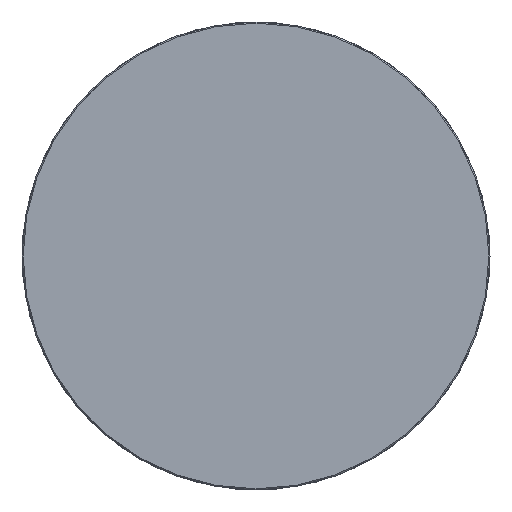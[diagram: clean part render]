
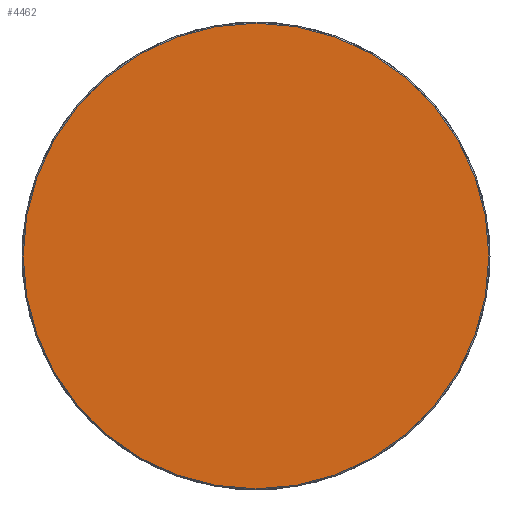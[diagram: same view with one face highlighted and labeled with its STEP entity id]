
A CAD part, left-side view. The second image highlights one B-rep face of the part: STEP entity #4462.
In plain terms, the highlighted planar face has unit normal (-1, 0, 0).
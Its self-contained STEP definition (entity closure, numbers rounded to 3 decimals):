
#131 = EDGE_LOOP ( 'NONE', ( #3657, #3814 ) ) ;
#146 = VERTEX_POINT ( 'NONE', #1279 ) ;
#437 = DIRECTION ( 'NONE',  ( -1., 0., 0. ) ) ;
#462 = DIRECTION ( 'NONE',  ( 0., 0., -1. ) ) ;
#579 = CARTESIAN_POINT ( 'NONE',  ( 0., 0., 0. ) ) ;
#1172 = FACE_OUTER_BOUND ( 'NONE', #131, .T. ) ;
#1245 = DIRECTION ( 'NONE',  ( 0., 0., -1. ) ) ;
#1249 = CARTESIAN_POINT ( 'NONE',  ( 0., 0., 0. ) ) ;
#1272 = DIRECTION ( 'NONE',  ( -1., 0., 0. ) ) ;
#1279 = CARTESIAN_POINT ( 'NONE',  ( 0., 0., -40.3 ) ) ;
#1425 = CARTESIAN_POINT ( 'NONE',  ( 0., 0., 40.3 ) ) ;
#1986 = EDGE_CURVE ( 'NONE', #146, #2403, #3428, .T. ) ;
#2125 = EDGE_CURVE ( 'NONE', #2403, #146, #3270, .T. ) ;
#2172 = AXIS2_PLACEMENT_3D ( 'NONE', #1249, #1272, #1245 ) ;
#2403 = VERTEX_POINT ( 'NONE', #1425 ) ;
#2609 = CARTESIAN_POINT ( 'NONE',  ( 0., 40.5, 0. ) ) ;
#2691 = DIRECTION ( 'NONE',  ( 0., 0., -1. ) ) ;
#2692 = DIRECTION ( 'NONE',  ( 1., 0., 0. ) ) ;
#2695 = PLANE ( 'NONE',  #3970 ) ;
#3270 = CIRCLE ( 'NONE', #4159, 40.3 ) ;
#3428 = CIRCLE ( 'NONE', #2172, 40.3 ) ;
#3657 = ORIENTED_EDGE ( 'NONE', *, *, #1986, .T. ) ;
#3814 = ORIENTED_EDGE ( 'NONE', *, *, #2125, .T. ) ;
#3970 = AXIS2_PLACEMENT_3D ( 'NONE', #2609, #2692, #2691 ) ;
#4159 = AXIS2_PLACEMENT_3D ( 'NONE', #579, #437, #462 ) ;
#4462 = ADVANCED_FACE ( 'NONE', ( #1172 ), #2695, .F. ) ;
